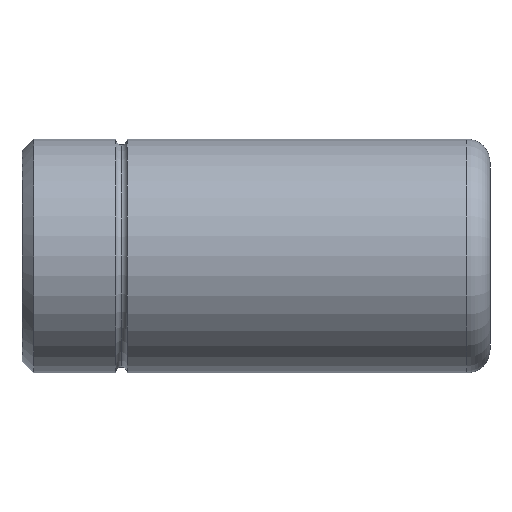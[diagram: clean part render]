
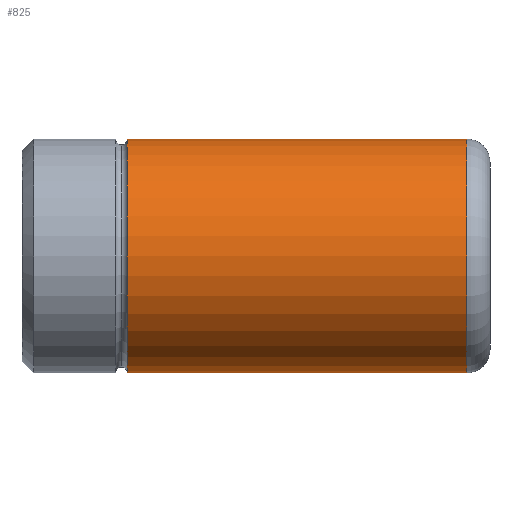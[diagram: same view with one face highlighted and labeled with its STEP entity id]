
A CAD part, front view. The second image highlights one B-rep face of the part: STEP entity #825.
In plain terms, the highlighted cylindrical face has radius 15 mm (diameter 30 mm), a partial arc.
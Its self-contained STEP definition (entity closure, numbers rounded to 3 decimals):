
#641=CARTESIAN_POINT('Vertex',(13.5,0.,15.)) ;
#648=CARTESIAN_POINT('Vertex',(13.5,0.,-15.)) ;
#674=CARTESIAN_POINT('Axis2P3D Location',(13.5,0.,0.)) ;
#678=CARTESIAN_POINT('Vertex',(13.5,-15.,0.)) ;
#681=CARTESIAN_POINT('Axis2P3D Location',(13.5,0.,0.)) ;
#765=CARTESIAN_POINT('Line Origine',(60.,0.,15.)) ;
#769=CARTESIAN_POINT('Vertex',(57.,0.,15.)) ;
#783=CARTESIAN_POINT('Vertex',(57.,0.,-15.)) ;
#786=CARTESIAN_POINT('Line Origine',(60.,0.,-15.)) ;
#800=CARTESIAN_POINT('Axis2P3D Location',(60.,0.,0.)) ;
#805=CARTESIAN_POINT('Axis2P3D Location',(57.,0.,0.)) ;
#809=CARTESIAN_POINT('Vertex',(57.,-15.,0.)) ;
#812=CARTESIAN_POINT('Axis2P3D Location',(57.,0.,0.)) ;
#675=DIRECTION('Axis2P3D Direction',(1.,0.,-0.)) ;
#682=DIRECTION('Axis2P3D Direction',(1.,0.,-0.)) ;
#766=DIRECTION('Vector Direction',(-1.,0.,0.)) ;
#787=DIRECTION('Vector Direction',(-1.,0.,0.)) ;
#801=DIRECTION('Axis2P3D Direction',(-1.,-0.,-0.)) ;
#802=DIRECTION('Axis2P3D XDirection',(0.,0.,-1.)) ;
#806=DIRECTION('Axis2P3D Direction',(-1.,-0.,-0.)) ;
#813=DIRECTION('Axis2P3D Direction',(-1.,-0.,-0.)) ;
#676=AXIS2_PLACEMENT_3D('Circle Axis2P3D',#674,#675,$) ;
#683=AXIS2_PLACEMENT_3D('Circle Axis2P3D',#681,#682,$) ;
#803=AXIS2_PLACEMENT_3D('Cylinder Axis2P3D',#800,#801,#802) ;
#807=AXIS2_PLACEMENT_3D('Circle Axis2P3D',#805,#806,$) ;
#814=AXIS2_PLACEMENT_3D('Circle Axis2P3D',#812,#813,$) ;
#818=ORIENTED_EDGE('',*,*,#790,.T.) ;
#819=ORIENTED_EDGE('',*,*,#811,.F.) ;
#820=ORIENTED_EDGE('',*,*,#816,.F.) ;
#821=ORIENTED_EDGE('',*,*,#771,.T.) ;
#822=ORIENTED_EDGE('',*,*,#685,.T.) ;
#823=ORIENTED_EDGE('',*,*,#680,.T.) ;
#767=VECTOR('Line Direction',#766,1.) ;
#788=VECTOR('Line Direction',#787,1.) ;
#825=ADVANCED_FACE('348-19 x 60',(#824),#804,.T.) ;
#677=CIRCLE('generated circle',#676,15.) ;
#684=CIRCLE('generated circle',#683,15.) ;
#808=CIRCLE('generated circle',#807,15.) ;
#815=CIRCLE('generated circle',#814,15.) ;
#804=CYLINDRICAL_SURFACE('generated cylinder',#803,15.) ;
#680=EDGE_CURVE('',#679,#649,#677,.T.) ;
#685=EDGE_CURVE('',#642,#679,#684,.T.) ;
#771=EDGE_CURVE('',#770,#642,#768,.T.) ;
#790=EDGE_CURVE('',#649,#784,#789,.F.) ;
#811=EDGE_CURVE('',#810,#784,#808,.F.) ;
#816=EDGE_CURVE('',#770,#810,#815,.F.) ;
#817=EDGE_LOOP('',(#818,#819,#820,#821,#822,#823)) ;
#824=FACE_OUTER_BOUND('',#817,.T.) ;
#768=LINE('Line',#765,#767) ;
#789=LINE('Line',#786,#788) ;
#642=VERTEX_POINT('',#641) ;
#649=VERTEX_POINT('',#648) ;
#679=VERTEX_POINT('',#678) ;
#770=VERTEX_POINT('',#769) ;
#784=VERTEX_POINT('',#783) ;
#810=VERTEX_POINT('',#809) ;
